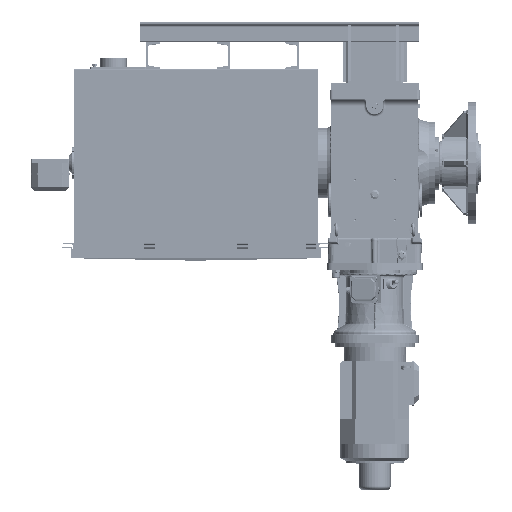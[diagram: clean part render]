
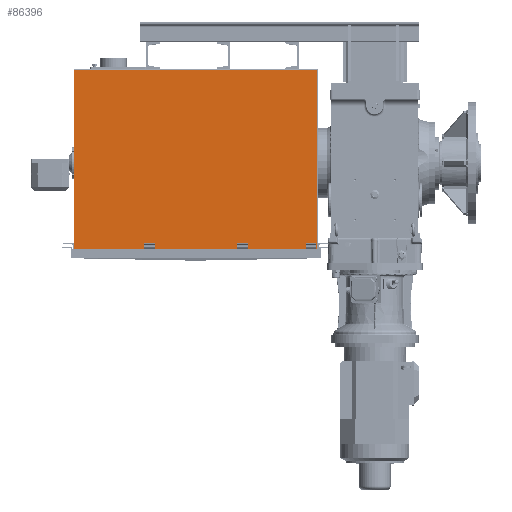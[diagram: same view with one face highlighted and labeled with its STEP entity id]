
A CAD part, top view. The second image highlights one B-rep face of the part: STEP entity #86396.
In plain terms, the highlighted planar face has unit normal (0, 0, 1).
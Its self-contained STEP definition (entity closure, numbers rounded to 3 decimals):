
#3692=LINE('',#126303,#9659);
#3709=LINE('',#126348,#9676);
#3711=LINE('',#126352,#9678);
#3712=LINE('',#126354,#9679);
#3713=LINE('',#126363,#9680);
#3730=LINE('',#126408,#9697);
#3732=LINE('',#126412,#9699);
#3733=LINE('',#126414,#9700);
#3734=LINE('',#126423,#9701);
#3751=LINE('',#126468,#9718);
#3753=LINE('',#126472,#9720);
#3754=LINE('',#126474,#9721);
#4009=LINE('',#127207,#9976);
#4012=LINE('',#127213,#9979);
#4015=LINE('',#127220,#9982);
#4018=LINE('',#127224,#9985);
#4024=LINE('',#127236,#9991);
#4026=LINE('',#127240,#9993);
#4028=LINE('',#127243,#9995);
#4029=LINE('',#127246,#9996);
#4030=LINE('',#127248,#9997);
#4031=LINE('',#127249,#9998);
#4032=LINE('',#127251,#9999);
#4033=LINE('',#127252,#10000);
#9659=VECTOR('',#102110,40.);
#9676=VECTOR('',#102153,40.);
#9678=VECTOR('',#102157,40.);
#9679=VECTOR('',#102160,40.);
#9680=VECTOR('',#102169,40.);
#9697=VECTOR('',#102212,40.);
#9699=VECTOR('',#102216,40.);
#9700=VECTOR('',#102219,40.);
#9701=VECTOR('',#102228,40.);
#9718=VECTOR('',#102271,40.);
#9720=VECTOR('',#102275,40.);
#9721=VECTOR('',#102278,40.);
#9976=VECTOR('',#103009,865.);
#9979=VECTOR('',#103014,0.992);
#9982=VECTOR('',#103019,2.976);
#9985=VECTOR('',#103024,1.984);
#9991=VECTOR('',#103034,2.976);
#9993=VECTOR('',#103038,0.992);
#9995=VECTOR('',#103042,1.984);
#9996=VECTOR('',#103045,23.016);
#9997=VECTOR('',#103046,699.016);
#9998=VECTOR('',#103047,915.);
#9999=VECTOR('',#103048,699.016);
#10000=VECTOR('',#103049,23.016);
#15633=PLANE('',#92053);
#19293=FACE_BOUND('',#26496,.T.);
#19294=FACE_BOUND('',#26497,.T.);
#19295=FACE_BOUND('',#26498,.T.);
#21147=FACE_OUTER_BOUND('',#26495,.T.);
#26495=EDGE_LOOP('',(#59432,#59433,#59434,#59435,#59436,#59437,#59438,#59439,
#59440,#59441,#59442,#59443));
#26496=EDGE_LOOP('',(#59444,#59445,#59446,#59447));
#26497=EDGE_LOOP('',(#59448,#59449,#59450,#59451));
#26498=EDGE_LOOP('',(#59452,#59453,#59454,#59455));
#36700=VERTEX_POINT('',#126301);
#36701=VERTEX_POINT('',#126302);
#36716=VERTEX_POINT('',#126346);
#36717=VERTEX_POINT('',#126350);
#36720=VERTEX_POINT('',#126361);
#36721=VERTEX_POINT('',#126362);
#36736=VERTEX_POINT('',#126406);
#36737=VERTEX_POINT('',#126410);
#36740=VERTEX_POINT('',#126421);
#36741=VERTEX_POINT('',#126422);
#36756=VERTEX_POINT('',#126466);
#36757=VERTEX_POINT('',#126470);
#36904=VERTEX_POINT('',#126907);
#36996=VERTEX_POINT('',#127199);
#36997=VERTEX_POINT('',#127203);
#36999=VERTEX_POINT('',#127211);
#37001=VERTEX_POINT('',#127217);
#37002=VERTEX_POINT('',#127219);
#37005=VERTEX_POINT('',#127233);
#37006=VERTEX_POINT('',#127235);
#37007=VERTEX_POINT('',#127239);
#37008=VERTEX_POINT('',#127245);
#37009=VERTEX_POINT('',#127247);
#37010=VERTEX_POINT('',#127250);
#45209=EDGE_CURVE('',#36700,#36701,#3692,.T.);
#45232=EDGE_CURVE('',#36701,#36716,#3709,.T.);
#45234=EDGE_CURVE('',#36717,#36700,#3711,.T.);
#45235=EDGE_CURVE('',#36716,#36717,#3712,.T.);
#45238=EDGE_CURVE('',#36720,#36721,#3713,.T.);
#45261=EDGE_CURVE('',#36721,#36736,#3730,.T.);
#45263=EDGE_CURVE('',#36737,#36720,#3732,.T.);
#45264=EDGE_CURVE('',#36736,#36737,#3733,.T.);
#45267=EDGE_CURVE('',#36740,#36741,#3734,.T.);
#45290=EDGE_CURVE('',#36741,#36756,#3751,.T.);
#45292=EDGE_CURVE('',#36757,#36740,#3753,.T.);
#45293=EDGE_CURVE('',#36756,#36757,#3754,.T.);
#45649=EDGE_CURVE('',#36996,#36997,#4009,.T.);
#45652=EDGE_CURVE('',#36997,#36999,#4012,.T.);
#45655=EDGE_CURVE('',#37002,#37001,#4015,.T.);
#45658=EDGE_CURVE('',#36999,#37002,#4018,.T.);
#45664=EDGE_CURVE('',#37006,#37005,#4024,.T.);
#45666=EDGE_CURVE('',#37007,#36996,#4026,.T.);
#45668=EDGE_CURVE('',#37005,#37007,#4028,.T.);
#45669=EDGE_CURVE('',#37008,#37001,#4029,.T.);
#45670=EDGE_CURVE('',#37009,#37008,#4030,.T.);
#45671=EDGE_CURVE('',#37009,#36904,#4031,.T.);
#45672=EDGE_CURVE('',#37010,#36904,#4032,.T.);
#45673=EDGE_CURVE('',#37006,#37010,#4033,.T.);
#59432=ORIENTED_EDGE('',*,*,#45655,.T.);
#59433=ORIENTED_EDGE('',*,*,#45669,.F.);
#59434=ORIENTED_EDGE('',*,*,#45670,.F.);
#59435=ORIENTED_EDGE('',*,*,#45671,.T.);
#59436=ORIENTED_EDGE('',*,*,#45672,.F.);
#59437=ORIENTED_EDGE('',*,*,#45673,.F.);
#59438=ORIENTED_EDGE('',*,*,#45664,.T.);
#59439=ORIENTED_EDGE('',*,*,#45668,.T.);
#59440=ORIENTED_EDGE('',*,*,#45666,.T.);
#59441=ORIENTED_EDGE('',*,*,#45649,.T.);
#59442=ORIENTED_EDGE('',*,*,#45652,.T.);
#59443=ORIENTED_EDGE('',*,*,#45658,.T.);
#59444=ORIENTED_EDGE('',*,*,#45209,.T.);
#59445=ORIENTED_EDGE('',*,*,#45232,.T.);
#59446=ORIENTED_EDGE('',*,*,#45235,.T.);
#59447=ORIENTED_EDGE('',*,*,#45234,.T.);
#59448=ORIENTED_EDGE('',*,*,#45238,.T.);
#59449=ORIENTED_EDGE('',*,*,#45261,.T.);
#59450=ORIENTED_EDGE('',*,*,#45264,.T.);
#59451=ORIENTED_EDGE('',*,*,#45263,.T.);
#59452=ORIENTED_EDGE('',*,*,#45267,.T.);
#59453=ORIENTED_EDGE('',*,*,#45290,.T.);
#59454=ORIENTED_EDGE('',*,*,#45293,.T.);
#59455=ORIENTED_EDGE('',*,*,#45292,.T.);
#86396=ADVANCED_FACE('',(#21147,#19293,#19294,#19295),#15633,.F.);
#92053=AXIS2_PLACEMENT_3D('',#127244,#103043,#103044);
#102110=DIRECTION('',(0.,1.,0.));
#102153=DIRECTION('',(1.,0.,0.));
#102157=DIRECTION('',(-1.,0.,0.));
#102160=DIRECTION('',(0.,-1.,0.));
#102169=DIRECTION('',(0.,1.,0.));
#102212=DIRECTION('',(1.,0.,0.));
#102216=DIRECTION('',(-1.,0.,0.));
#102219=DIRECTION('',(0.,-1.,0.));
#102228=DIRECTION('',(0.,1.,0.));
#102271=DIRECTION('',(1.,0.,0.));
#102275=DIRECTION('',(-1.,0.,0.));
#102278=DIRECTION('',(0.,-1.,0.));
#103009=DIRECTION('',(1.,0.,0.));
#103014=DIRECTION('',(0.,1.,0.));
#103019=DIRECTION('',(0.,-1.,0.));
#103024=DIRECTION('',(1.,0.,0.));
#103034=DIRECTION('',(0.,1.,0.));
#103038=DIRECTION('',(0.,-1.,0.));
#103042=DIRECTION('',(1.,0.,0.));
#103043=DIRECTION('center_axis',(0.,0.,
-1.));
#103044=DIRECTION('ref_axis',(1.,0.,0.));
#103045=DIRECTION('',(-1.,0.,0.));
#103046=DIRECTION('',(0.,-1.,0.));
#103047=DIRECTION('',(-1.,0.,0.));
#103048=DIRECTION('',(0.,1.,0.));
#103049=DIRECTION('',(-1.,0.,0.));
#126301=CARTESIAN_POINT('',(-387.982,-551.817,774.738));
#126302=CARTESIAN_POINT('',(-387.982,-511.817,774.738));
#126303=CARTESIAN_POINT('',(-387.982,-364.737,774.738));
#126346=CARTESIAN_POINT('',(-347.982,-511.817,774.738));
#126348=CARTESIAN_POINT('',(-585.482,-511.817,774.738));
#126350=CARTESIAN_POINT('',(-347.982,-551.817,774.738));
#126352=CARTESIAN_POINT('',(-585.482,-551.817,774.738));
#126354=CARTESIAN_POINT('',(-347.982,-364.737,774.738));
#126361=CARTESIAN_POINT('',(-997.982,-551.817,774.738));
#126362=CARTESIAN_POINT('',(-997.982,-511.817,774.738));
#126363=CARTESIAN_POINT('',(-997.982,-364.737,774.738));
#126406=CARTESIAN_POINT('',(-957.982,-511.817,774.738));
#126408=CARTESIAN_POINT('',(-890.482,-511.817,774.738));
#126410=CARTESIAN_POINT('',(-957.982,-551.817,774.738));
#126412=CARTESIAN_POINT('',(-890.482,-551.817,774.738));
#126414=CARTESIAN_POINT('',(-957.982,-364.737,774.738));
#126421=CARTESIAN_POINT('',(-647.982,-551.817,774.738));
#126422=CARTESIAN_POINT('',(-647.982,-511.817,774.738));
#126423=CARTESIAN_POINT('',(-647.982,-364.737,774.738));
#126466=CARTESIAN_POINT('',(-607.982,-511.817,774.738));
#126468=CARTESIAN_POINT('',(-715.482,-511.817,774.738));
#126470=CARTESIAN_POINT('',(-607.982,-551.817,774.738));
#126472=CARTESIAN_POINT('',(-715.482,-551.817,774.738));
#126474=CARTESIAN_POINT('',(-607.982,-364.737,774.738));
#126907=CARTESIAN_POINT('',(-1260.482,141.483,774.738));
#127199=CARTESIAN_POINT('',(-1235.482,-555.55,774.738));
#127203=CARTESIAN_POINT('',(-370.482,-555.55,774.738));
#127207=CARTESIAN_POINT('',(-586.732,-555.55,774.738));
#127211=CARTESIAN_POINT('',(-370.482,-554.558,774.738));
#127213=CARTESIAN_POINT('',(-370.482,-380.17,774.738));
#127217=CARTESIAN_POINT('',(-368.498,-557.534,774.738));
#127219=CARTESIAN_POINT('',(-368.498,-554.558,774.738));
#127220=CARTESIAN_POINT('',(-368.498,-381.658,774.738));
#127224=CARTESIAN_POINT('',(-585.74,-554.558,774.738));
#127233=CARTESIAN_POINT('',(-1237.466,-554.558,774.738));
#127235=CARTESIAN_POINT('',(-1237.466,-557.534,774.738));
#127236=CARTESIAN_POINT('',(-1237.466,-380.17,774.738));
#127239=CARTESIAN_POINT('',(-1235.482,-554.558,774.738));
#127240=CARTESIAN_POINT('',(-1235.482,-381.658,774.738));
#127243=CARTESIAN_POINT('',(-1019.232,-554.558,774.738));
#127244=CARTESIAN_POINT('Origin',(-802.982,-205.782,774.738));
#127245=CARTESIAN_POINT('',(-345.482,-557.534,774.738));
#127246=CARTESIAN_POINT('',(-345.482,-557.534,774.738));
#127247=CARTESIAN_POINT('',(-345.482,141.483,774.738));
#127248=CARTESIAN_POINT('',(-345.482,141.483,774.738));
#127249=CARTESIAN_POINT('',(-802.982,141.483,774.738));
#127250=CARTESIAN_POINT('',(-1260.482,-557.534,774.738));
#127251=CARTESIAN_POINT('',(-1260.482,150.457,774.738));
#127252=CARTESIAN_POINT('',(-345.482,-557.534,774.738));
